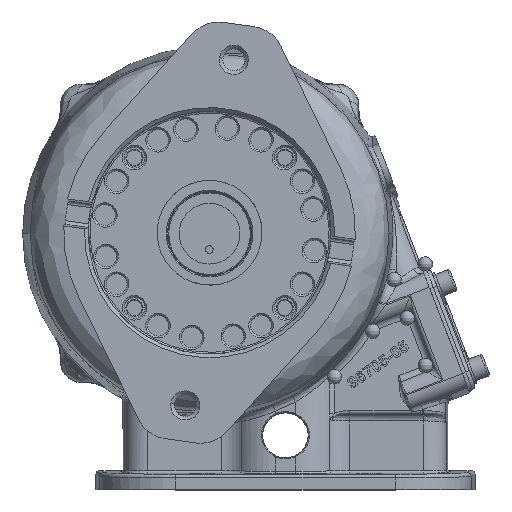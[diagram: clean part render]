
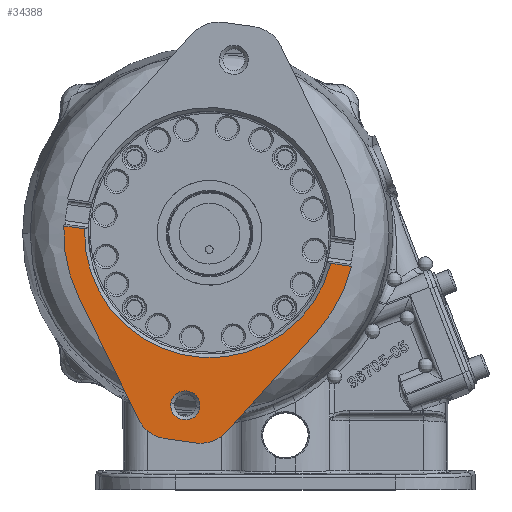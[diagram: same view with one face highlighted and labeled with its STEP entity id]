
A CAD part, top view. The second image highlights one B-rep face of the part: STEP entity #34388.
In plain terms, the highlighted planar face has unit normal (0, 0, 1).
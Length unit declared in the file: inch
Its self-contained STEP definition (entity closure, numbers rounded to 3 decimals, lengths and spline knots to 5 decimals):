
#1665 = DIRECTION ( 'NONE',  ( -1., 0., 0. ) ) ;
#4549 = FACE_OUTER_BOUND ( 'NONE', #70231, .T. ) ;
#5502 = ORIENTED_EDGE ( 'NONE', *, *, #13250, .T. ) ;
#7273 = VERTEX_POINT ( 'NONE', #45553 ) ;
#13250 = EDGE_CURVE ( 'NONE', #38551, #7273, #57071, .T. ) ;
#13895 = DIRECTION ( 'NONE',  ( 0., 0., -1. ) ) ;
#16802 = CARTESIAN_POINT ( 'NONE',  ( 0.25, -3.46382, 0.55 ) ) ;
#16920 = FACE_BOUND ( 'NONE', #32358, .T. ) ;
#18076 = LINE ( 'NONE', #43525, #114713 ) ;
#19636 = EDGE_CURVE ( 'NONE', #35264, #137263, #18076, .T. ) ;
#20115 = AXIS2_PLACEMENT_3D ( 'NONE', #40090, #86509, #74915 ) ;
#23291 = CARTESIAN_POINT ( 'NONE',  ( 0.24, -2.875, 0.55 ) ) ;
#24483 = ORIENTED_EDGE ( 'NONE', *, *, #52272, .T. ) ;
#26827 = VERTEX_POINT ( 'NONE', #33850 ) ;
#28504 = PLANE ( 'NONE',  #20115 ) ;
#28555 = EDGE_CURVE ( 'NONE', #137263, #26827, #132295, .T. ) ;
#31423 = LINE ( 'NONE', #16802, #69710 ) ;
#32358 = EDGE_LOOP ( 'NONE', ( #41921, #69181 ) ) ;
#33598 = CIRCLE ( 'NONE', #63320, 0.58882 ) ;
#33850 = CARTESIAN_POINT ( 'NONE',  ( -2.04878, -0.22412, 0.55 ) ) ;
#34388 = ADVANCED_FACE ( 'NONE', ( #16920, #4549 ), #28504, .F. ) ;
#35264 = VERTEX_POINT ( 'NONE', #87476 ) ;
#36523 = EDGE_CURVE ( 'NONE', #109432, #38551, #105664, .T. ) ;
#38471 = DIRECTION ( 'NONE',  ( 0.559, -0.829, 0. ) ) ;
#38551 = VERTEX_POINT ( 'NONE', #94084 ) ;
#39658 = AXIS2_PLACEMENT_3D ( 'NONE', #64590, #149578, #43663 ) ;
#40090 = CARTESIAN_POINT ( 'NONE',  ( -2.54784, 3.52445, 0.55 ) ) ;
#41357 = ORIENTED_EDGE ( 'NONE', *, *, #36523, .T. ) ;
#41921 = ORIENTED_EDGE ( 'NONE', *, *, #97428, .T. ) ;
#43400 = ORIENTED_EDGE ( 'NONE', *, *, #28555, .T. ) ;
#43525 = CARTESIAN_POINT ( 'NONE',  ( 2.59994, -0.22412, 0.55 ) ) ;
#43663 = DIRECTION ( 'NONE',  ( -1., 0., 0. ) ) ;
#43928 = CARTESIAN_POINT ( 'NONE',  ( -0.25, -3.46382, 0.55 ) ) ;
#45553 = CARTESIAN_POINT ( 'NONE',  ( 1.99282, -1.34426, 0.55 ) ) ;
#46830 = VECTOR ( 'NONE', #117359, 39.37008 ) ;
#47231 = VECTOR ( 'NONE', #88609, 39.37008 ) ;
#47302 = DIRECTION ( 'NONE',  ( 0., 0., 1. ) ) ;
#47639 = ORIENTED_EDGE ( 'NONE', *, *, #63705, .T. ) ;
#48744 = EDGE_CURVE ( 'NONE', #142789, #112911, #91325, .T. ) ;
#49369 = DIRECTION ( 'NONE',  ( 0., 0., 1. ) ) ;
#52272 = EDGE_CURVE ( 'NONE', #7273, #35264, #84152, .T. ) ;
#53055 = LINE ( 'NONE', #112566, #47231 ) ;
#53396 = ORIENTED_EDGE ( 'NONE', *, *, #61739, .T. ) ;
#55907 = DIRECTION ( 'NONE',  ( -1., 0., 0. ) ) ;
#57071 = LINE ( 'NONE', #94163, #46830 ) ;
#58595 = CARTESIAN_POINT ( 'NONE',  ( 0.25, -3.46382, 0.55 ) ) ;
#60984 = CARTESIAN_POINT ( 'NONE',  ( -0.25, -2.875, 0.55 ) ) ;
#61057 = DIRECTION ( 'NONE',  ( -1., 0., 0. ) ) ;
#61739 = EDGE_CURVE ( 'NONE', #115993, #86192, #33598, .T. ) ;
#63320 = AXIS2_PLACEMENT_3D ( 'NONE', #60984, #49369, #143658 ) ;
#63705 = EDGE_CURVE ( 'NONE', #26827, #142789, #53055, .T. ) ;
#64590 = CARTESIAN_POINT ( 'NONE',  ( 0., 0., 0.55 ) ) ;
#64954 = DIRECTION ( 'NONE',  ( 0., 0., 1. ) ) ;
#65468 = CARTESIAN_POINT ( 'NONE',  ( 0., -2.875, 0.55 ) ) ;
#65645 = AXIS2_PLACEMENT_3D ( 'NONE', #141476, #13895, #61057 ) ;
#69181 = ORIENTED_EDGE ( 'NONE', *, *, #131516, .T. ) ;
#69710 = VECTOR ( 'NONE', #135827, 39.37008 ) ;
#70231 = EDGE_LOOP ( 'NONE', ( #96646, #43400, #47639, #121167, #145368, #53396, #89304, #41357, #5502, #24483 ) ) ;
#72677 = CIRCLE ( 'NONE', #102357, 0.24 ) ;
#74915 = DIRECTION ( 'NONE',  ( -1., 0., 0. ) ) ;
#77865 = CARTESIAN_POINT ( 'NONE',  ( -0.24, -2.875, 0.55 ) ) ;
#80272 = CARTESIAN_POINT ( 'NONE',  ( -1.99282, -1.34426, 0.55 ) ) ;
#80571 = CARTESIAN_POINT ( 'NONE',  ( -2.39335, -0.22412, 0.55 ) ) ;
#82688 = CIRCLE ( 'NONE', #107388, 0.24 ) ;
#84152 = CIRCLE ( 'NONE', #39658, 2.40382 ) ;
#84348 = CARTESIAN_POINT ( 'NONE',  ( 2.04878, -0.22412, 0.55 ) ) ;
#84379 = CARTESIAN_POINT ( 'NONE',  ( 0., 0., 0.55 ) ) ;
#86192 = VERTEX_POINT ( 'NONE', #43928 ) ;
#86357 = AXIS2_PLACEMENT_3D ( 'NONE', #84379, #47302, #1665 ) ;
#86398 = LINE ( 'NONE', #109582, #119751 ) ;
#86509 = DIRECTION ( 'NONE',  ( 0., 0., -1. ) ) ;
#87476 = CARTESIAN_POINT ( 'NONE',  ( 2.39335, -0.22412, 0.55 ) ) ;
#87892 = DIRECTION ( 'NONE',  ( 0., 0., -1. ) ) ;
#88609 = DIRECTION ( 'NONE',  ( -1., 0., 0. ) ) ;
#89304 = ORIENTED_EDGE ( 'NONE', *, *, #115943, .T. ) ;
#91182 = DIRECTION ( 'NONE',  ( 0., 0., -1. ) ) ;
#91325 = CIRCLE ( 'NONE', #86357, 2.40382 ) ;
#94084 = CARTESIAN_POINT ( 'NONE',  ( 0.73815, -3.20428, 0.55 ) ) ;
#94163 = CARTESIAN_POINT ( 'NONE',  ( 1.99282, -1.34426, 0.55 ) ) ;
#96646 = ORIENTED_EDGE ( 'NONE', *, *, #19636, .T. ) ;
#97428 = EDGE_CURVE ( 'NONE', #145047, #115932, #82688, .T. ) ;
#97772 = EDGE_CURVE ( 'NONE', #112911, #115993, #86398, .T. ) ;
#102357 = AXIS2_PLACEMENT_3D ( 'NONE', #114365, #91182, #112089 ) ;
#105664 = CIRCLE ( 'NONE', #125444, 0.58882 ) ;
#107388 = AXIS2_PLACEMENT_3D ( 'NONE', #65468, #87892, #123477 ) ;
#109432 = VERTEX_POINT ( 'NONE', #58595 ) ;
#109582 = CARTESIAN_POINT ( 'NONE',  ( -0.73815, -3.20428, 0.55 ) ) ;
#112089 = DIRECTION ( 'NONE',  ( -1., 0., 0. ) ) ;
#112566 = CARTESIAN_POINT ( 'NONE',  ( 2.59994, -0.22412, 0.55 ) ) ;
#112911 = VERTEX_POINT ( 'NONE', #80272 ) ;
#114365 = CARTESIAN_POINT ( 'NONE',  ( 0., -2.875, 0.55 ) ) ;
#114713 = VECTOR ( 'NONE', #55907, 39.37008 ) ;
#115932 = VERTEX_POINT ( 'NONE', #77865 ) ;
#115943 = EDGE_CURVE ( 'NONE', #86192, #109432, #31423, .T. ) ;
#115993 = VERTEX_POINT ( 'NONE', #148181 ) ;
#117359 = DIRECTION ( 'NONE',  ( 0.559, 0.829, 0. ) ) ;
#119751 = VECTOR ( 'NONE', #38471, 39.37008 ) ;
#121167 = ORIENTED_EDGE ( 'NONE', *, *, #48744, .T. ) ;
#123477 = DIRECTION ( 'NONE',  ( -1., 0., 0. ) ) ;
#125249 = DIRECTION ( 'NONE',  ( -1., 0., 0. ) ) ;
#125444 = AXIS2_PLACEMENT_3D ( 'NONE', #149175, #64954, #125249 ) ;
#131516 = EDGE_CURVE ( 'NONE', #115932, #145047, #72677, .T. ) ;
#132295 = CIRCLE ( 'NONE', #65645, 2.061 ) ;
#135827 = DIRECTION ( 'NONE',  ( 1., 0., 0. ) ) ;
#137263 = VERTEX_POINT ( 'NONE', #84348 ) ;
#141476 = CARTESIAN_POINT ( 'NONE',  ( 0., 0., 0.55 ) ) ;
#142789 = VERTEX_POINT ( 'NONE', #80571 ) ;
#143658 = DIRECTION ( 'NONE',  ( -1., 0., 0. ) ) ;
#145047 = VERTEX_POINT ( 'NONE', #23291 ) ;
#145368 = ORIENTED_EDGE ( 'NONE', *, *, #97772, .T. ) ;
#148181 = CARTESIAN_POINT ( 'NONE',  ( -0.73815, -3.20428, 0.55 ) ) ;
#149175 = CARTESIAN_POINT ( 'NONE',  ( 0.25, -2.875, 0.55 ) ) ;
#149578 = DIRECTION ( 'NONE',  ( 0., 0., 1. ) ) ;
